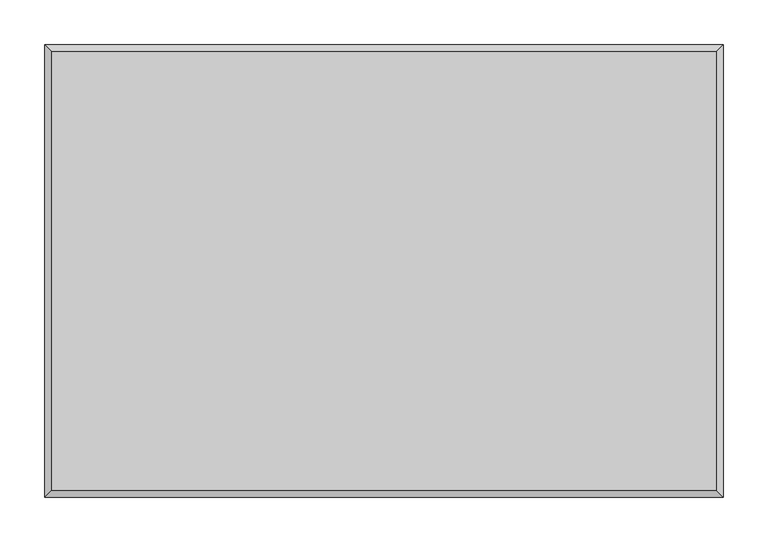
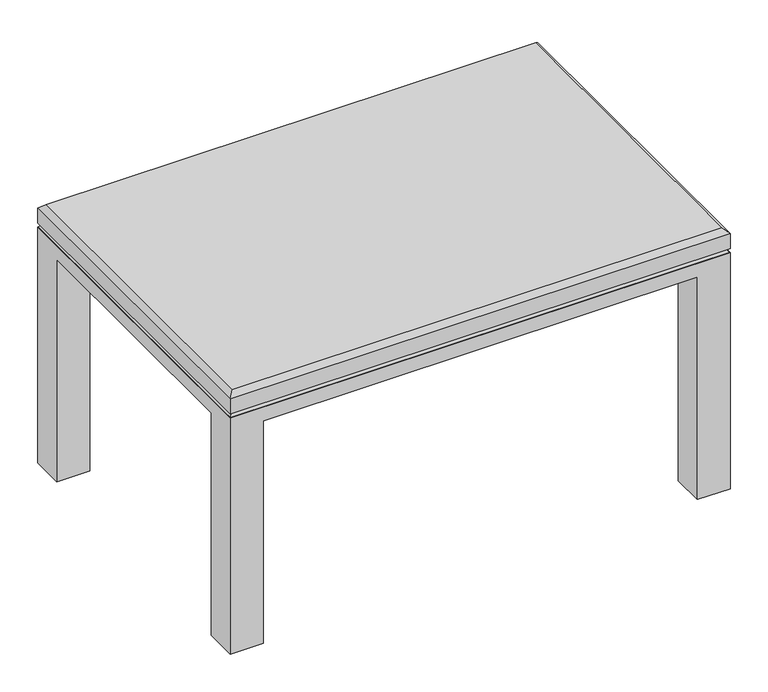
"""IFC4 building model written with IfcOpenShell, lengths in millimetres: furniture geometry, Steelcase Coalesse - Swathmore Plus - Beveled : 20D x 30W x 16 1/2H - Glass Top."""

from ifc_helpers import new_model, si_unit, origin, place, context, project, spatial, faceted_brep, source, transform, mapped, element, save


def furniture_38775423(model_context):
    return source(origin(), model_context, "Body", "Brep", [
        faceted_brep([(762.0, 0.0, 381.0), (0.0, 0.0, 381.0), (0.0, -508.0, 381.0), (762.0, -508.0, 381.0), (762.0, -50.1297163, 358.7750121), (762.0, -458.1013016, 358.7750121), (711.8734085, -458.1013016, 358.7750121), (711.8734085, -457.8702837, 358.7750121), (755.6498062, -457.8702837, 358.7750121), (755.6498062, -50.1297163, 358.7750121), (711.8734085, -508.0, 358.7750121), (50.1812393, -508.0, 358.7750121), (50.1812393, -458.1013016, 358.7750121), (0.0, -458.1013016, 358.7750121), (0.0, -50.1297163, 358.7750121), (6.3501938, -50.1297163, 358.7750121), (6.3501938, -457.8702837, 358.7750121), (50.8001938, -457.8702837, 358.7750121), (50.8001938, -501.6496318, 358.7750121), (711.8734085, -501.6496318, 358.7750121), (50.1812393, 0.0, 358.7750121), (711.8734085, 0.0, 358.7750121), (711.8734085, -6.3503682, 358.7750121), (50.8001938, -6.3503682, 358.7750121), (50.8001938, -50.1297163, 358.7750121), (50.1812393, -50.1297163, 358.7750121), (762.0, 0.0, 0.0), (711.8734085, 0.0, 0.0), (50.1812393, 0.0, 0.0), (0.0, 0.0, 0.0), (0.0, -50.1297163, 0.0), (0.0, -458.1013016, 0.0), (0.0, -508.0, 0.0), (50.1812393, -508.0, 0.0), (711.8734085, -508.0, 0.0), (762.0, -508.0, 0.0), (762.0, -458.1013016, 0.0), (762.0, -50.1297163, 0.0), (50.1812393, -50.1297163, 0.0), (50.1812393, -458.1013016, 0.0), (711.8734085, -50.1297163, 0.0), (711.8734085, -458.1013016, 0.0), (50.1812393, -458.1013016, 336.5499879), (711.8734085, -50.1297163, 336.5499879), (711.8734085, -28.575, 336.5499879), (733.425, -50.1297163, 336.5499879), (711.8734085, -458.1013016, 336.5499879), (711.8734085, -479.425, 336.5499879), (50.7998062, -50.8000242, 336.5499879), (50.7998062, -28.575, 336.5499879), (733.425, -458.1013016, 336.5499879), (50.1812393, -479.425, 336.5499879), (50.1812393, -458.1013016, 336.5499879), (28.5708422, -458.1013016, 336.5499879), (28.5708422, -50.8000242, 336.5499879)], [[[0, 1, 2, 3]], [[4, 5, 6, 7, 8, 9]], [[10, 11, 12, 13, 14, 15, 16, 17, 18, 19]], [[20, 21, 22, 23, 24, 25]], [[1, 0, 26, 27, 21, 20, 28, 29]], [[2, 1, 29, 30, 14, 13, 31, 32]], [[3, 2, 32, 33, 11, 10, 34, 35]], [[0, 3, 35, 36, 5, 4, 37, 26]], [[28, 38, 30, 29]], [[33, 32, 31, 39]], [[26, 37, 40, 27]], [[36, 35, 34, 41]], [[30, 38, 25, 15, 14]], [[38, 28, 20, 25]], [[33, 39, 42, 12, 11]], [[39, 31, 13, 12, 42]], [[27, 40, 43, 44, 22, 21]], [[40, 37, 4, 9, 45, 43]], [[36, 41, 46, 6, 5]], [[41, 34, 10, 19, 47, 46]], [[48, 49, 44, 43, 45, 50, 46, 47, 51, 52, 53, 54]], [[48, 54, 15, 25, 24]], [[54, 53, 16, 15]], [[53, 52, 17, 16]], [[52, 51, 18, 17]], [[51, 47, 19, 18]], [[46, 7, 6]], [[46, 50, 8, 7]], [[50, 45, 9, 8]], [[44, 49, 23, 22]], [[49, 48, 24, 23]]]),
        faceted_brep([(762.0, -508.0, 411.1625121), (762.0, -508.0, 387.3500121), (762.0, 0.0, 387.3500121), (762.0, 0.0, 411.1625121), (0.0, 0.0, 411.1625121), (0.0, 0.0, 387.3500121), (0.0, -508.0, 387.3500121), (0.0, -508.0, 411.1625121), (754.0626938, -7.9375242, 419.1), (7.9373062, -7.9375242, 419.1), (7.9373062, -500.0625484, 419.1), (754.0626938, -500.0625484, 419.1)], [[[0, 1, 2, 3]], [[4, 5, 6, 7]], [[1, 0, 7, 6]], [[2, 1, 6, 5]], [[3, 2, 5, 4]], [[8, 9, 10, 11]], [[8, 11, 0, 3]], [[11, 10, 7, 0]], [[10, 9, 4, 7]], [[9, 8, 3, 4]]]),
        faceted_brep([(762.0, 0.0, 381.0), (762.0, -508.0, 381.0), (0.0, -508.0, 381.0), (0.0, 0.0, 381.0), (755.6498062, -6.3499758, 387.3500121), (6.3501938, -6.3499758, 387.3500121), (6.3501938, -501.6496318, 387.3500121), (755.6498062, -501.6496318, 387.3500121)], [[[0, 1, 2, 3]], [[4, 5, 6, 7]], [[4, 7, 1, 0]], [[7, 6, 2, 1]], [[6, 5, 3, 2]], [[5, 4, 0, 3]]]),
    ])


if __name__ == "__main__":
    model = new_model("IFC4")
    model_context = context("Model", 3, world=origin())
    ifc_project = project(units=[si_unit("LENGTHUNIT", "METRE", prefix="MILLI")], contexts=[model_context])
    site = spatial("IfcSite", under=ifc_project)
    building = spatial("IfcBuilding", under=site)
    placement = place(None, origin())
    furniture_shape = furniture_38775423(model_context)
    element("IfcFurniture", 1, ObjectType="Steelcase Coalesse - Swathmore Plus - Beveled : 20D x 30W x 16 1/2H - Glass Top", at=placement, inside=building, context=model_context, shape_type="MappedRepresentation", body=[
        mapped(furniture_shape, transform((0.0, 0.0, 0.0), x_axis=(1.0, 0.0, 0.0), y_axis=(0.0, 1.0, 0.0), z_axis=(0.0, 0.0, 1.0))),
    ])
    save(model, "model.ifc")
